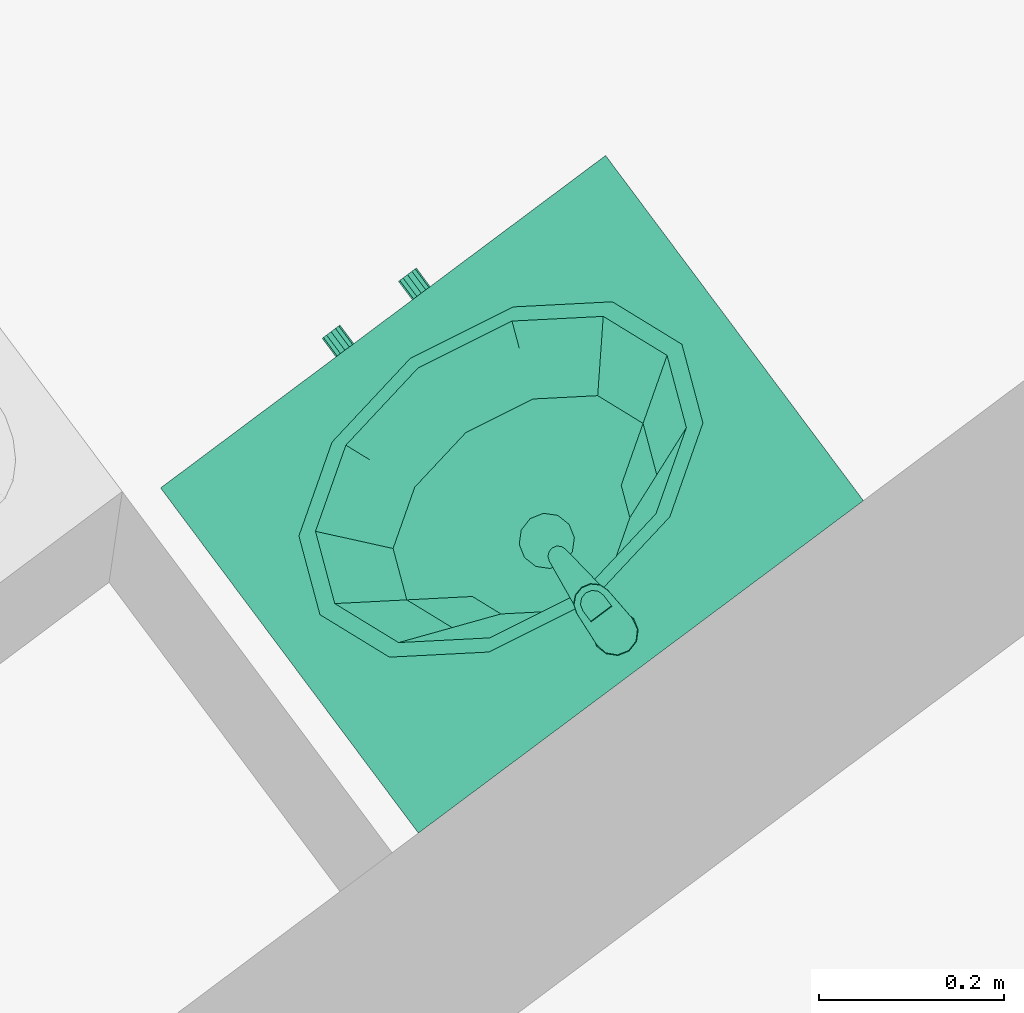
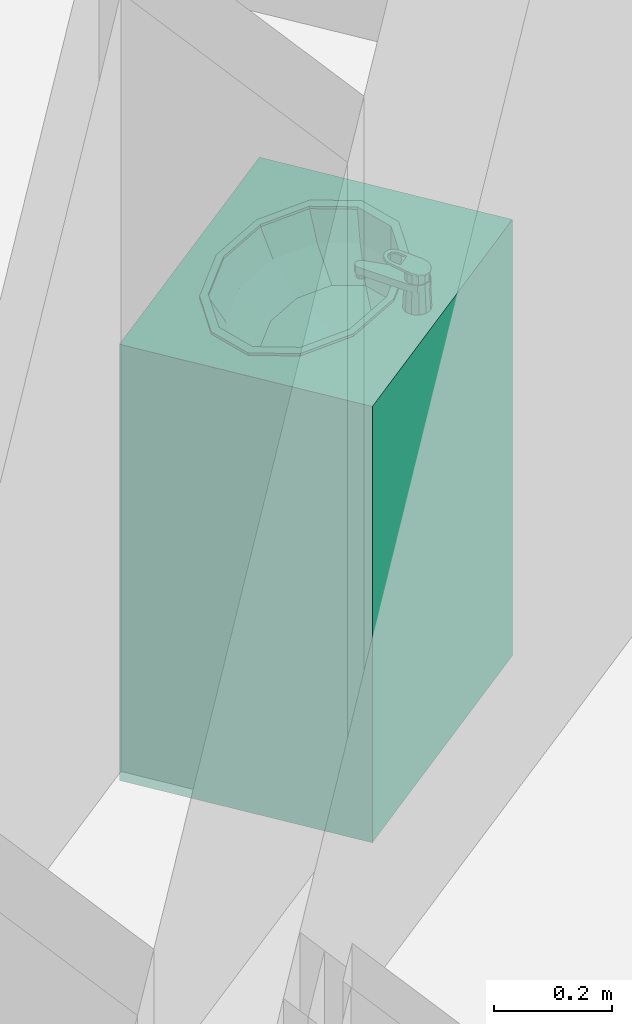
# One storey, part 132 of 195: 1 distribution element.
"""IFC2X3 building model written with IfcOpenShell, lengths in metres."""

from ifc_helpers import new_model, entity, si_unit, converted_unit, derived_unit, money_unit, direction, frame, origin_with_axes, place, context, subcontext, project, spatial, open_shell, faceted_brep, surface_model, source, transform, mapped, type_object, element, save


model = new_model("IFC2X3")

# Units and contexts
model_context = context("Model", 3, precision=1e-05, world=origin_with_axes(), true_north=direction((0.0, 1.0)))
body_context = subcontext(model_context, "Body", "Model", "MODEL_VIEW")
ifc_project = project(units=[si_unit("LENGTHUNIT", "METRE"), si_unit("AREAUNIT", "SQUARE_METRE"), si_unit("VOLUMEUNIT", "CUBIC_METRE"), converted_unit("PLANEANGLEUNIT", "DEGREE", entity("IfcPlaneAngleMeasure", 0.0174532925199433), si_unit("PLANEANGLEUNIT", "RADIAN"), dimensions=[0, 0, 0, 0, 0, 0, 0]), money_unit("CHF"), converted_unit("TIMEUNIT", "Year", entity("IfcTimeMeasure", 31557600.0), si_unit("TIMEUNIT", "SECOND"), dimensions=[0, 0, 1, 0, 0, 0, 0]), si_unit("MASSUNIT", "GRAM", prefix="KILO"), si_unit("THERMODYNAMICTEMPERATUREUNIT", "DEGREE_CELSIUS"), si_unit("LUMINOUSINTENSITYUNIT", "LUMEN"), si_unit("ENERGYUNIT", "JOULE", prefix="MEGA"), derived_unit("THERMALCONDUCTANCEUNIT", [(si_unit("POWERUNIT", "WATT"), 1), (si_unit("LENGTHUNIT", "METRE"), -1), (si_unit("THERMODYNAMICTEMPERATUREUNIT", "KELVIN"), -1)]), derived_unit("SPECIFICHEATCAPACITYUNIT", [(si_unit("ENERGYUNIT", "JOULE"), 1), (si_unit("MASSUNIT", "GRAM", prefix="KILO"), -1), (si_unit("THERMODYNAMICTEMPERATUREUNIT", "KELVIN"), -1)]), derived_unit("MASSDENSITYUNIT", [(si_unit("MASSUNIT", "GRAM", prefix="KILO"), 1), (si_unit("VOLUMEUNIT", "CUBIC_METRE"), -1)])], contexts=[model_context])

# Site, building, storey
site_placement = place(None, origin_with_axes())
site = spatial("IfcSite", under=ifc_project, at=site_placement, Name="Site", CompositionType="ELEMENT")
building_placement = place(site_placement, origin_with_axes())
building = spatial("IfcBuilding", under=site, at=building_placement, Name="Bâtiment", CompositionType="ELEMENT")
storey_placement = place(building_placement, origin_with_axes())
storey = spatial("IfcBuildingStorey", under=building, at=storey_placement, Name="rdc", CompositionType="ELEMENT", Elevation=0.0)

# Distribution element
distribution_element_type = type_object("IfcDistributionElementType", Name="Lavabo sur meuble 27")
shared_shape = source(origin_with_axes(), body_context, "Body", "SurfaceModel", [
    faceted_brep([(0.0, 0.0, 0.0), (0.6, 0.0, 0.0), (0.6, 0.0, 0.1), (0.0, 0.0, 0.1), (0.0, 0.4653441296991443, 0.0), (0.6, 0.4653441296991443, 0.0), (0.6, 0.4653441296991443, 0.1), (0.0, 0.4653441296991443, 0.1)], [[[0, 1, 2, 3]], [[0, 4, 5, 1]], [[1, 5, 6, 2]], [[3, 2, 6, 7]], [[4, 0, 3, 7]], [[5, 4, 7, 6]]]),
    faceted_brep([(0.0, 0.0, 0.1), (0.02, 0.0, 0.1), (0.02, 0.0, 0.12), (0.0, 0.0, 0.12), (0.0, 0.4653441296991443, 0.1), (0.02, 0.4653441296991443, 0.1), (0.58, 0.4653441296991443, 0.1), (0.6, 0.4653441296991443, 0.1), (0.6, 0.0, 0.1), (0.58, 0.0, 0.1), (0.58, 0.0, 0.12), (0.6, 0.0, 0.12), (0.6, 0.4653441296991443, 0.12), (0.58, 0.4653441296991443, 0.12), (0.02, 0.4653441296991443, 0.12), (0.0, 0.4653441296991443, 0.12)], [[[0, 1, 2, 3]], [[0, 4, 5, 6, 7, 8, 9, 1]], [[1, 9, 10, 2]], [[3, 2, 10, 11, 12, 13, 14, 15]], [[4, 0, 3, 15]], [[5, 4, 15, 14]], [[6, 5, 14, 13]], [[7, 6, 13, 12]], [[8, 7, 12, 11]], [[9, 8, 11, 10]]]),
    faceted_brep([(0.0, 0.0, 0.12), (0.02, 0.0, 0.12), (0.02, 0.0, 0.85), (0.0, 0.0, 0.85), (0.0, 0.4653441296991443, 0.12), (0.6, 0.4653441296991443, 0.12), (0.6, 0.0, 0.12), (0.58, 0.0, 0.12), (0.58, 0.4453441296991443, 0.12), (0.02, 0.4453441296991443, 0.12), (0.02, 0.4453441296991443, 0.85), (0.58, 0.4453441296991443, 0.85), (0.58, 0.0, 0.85), (0.6, 0.0, 0.85), (0.6, 0.4653441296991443, 0.85), (0.0, 0.4653441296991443, 0.85)], [[[0, 1, 2, 3]], [[0, 4, 5, 6, 7, 8, 9, 1]], [[1, 9, 10, 2]], [[3, 2, 10, 11, 12, 13, 14, 15]], [[4, 0, 3, 15]], [[5, 4, 15, 14]], [[6, 5, 14, 13]], [[7, 6, 13, 12]], [[8, 7, 12, 11]], [[9, 8, 11, 10]]]),
    faceted_brep([(0.58, 0.0, 0.3233333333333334), (0.58, 0.4453441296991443, 0.3233333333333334), (0.58, 0.4453441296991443, 0.3433333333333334), (0.58, 0.0, 0.3433333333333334), (0.02, 0.0, 0.3233333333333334), (0.02, 0.4453441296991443, 0.3233333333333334), (0.02, 0.4453441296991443, 0.3433333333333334), (0.02, 0.0, 0.3433333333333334)], [[[0, 1, 2, 3]], [[0, 4, 5, 1]], [[1, 5, 6, 2]], [[3, 2, 6, 7]], [[4, 0, 3, 7]], [[5, 4, 7, 6]]]),
    faceted_brep([(0.58, 0.0, 0.5666666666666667), (0.58, 0.4453441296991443, 0.5666666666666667), (0.58, 0.4453441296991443, 0.5866666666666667), (0.58, 0.0, 0.5866666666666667), (0.02, 0.0, 0.5666666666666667), (0.02, 0.4453441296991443, 0.5666666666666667), (0.02, 0.4453441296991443, 0.5866666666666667), (0.02, 0.0, 0.5866666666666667)], [[[0, 1, 2, 3]], [[0, 4, 5, 1]], [[1, 5, 6, 2]], [[3, 2, 6, 7]], [[4, 0, 3, 7]], [[5, 4, 7, 6]]]),
    faceted_brep([(0.0, 0.4653441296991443, 0.85), (0.6, 0.4653441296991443, 0.85), (0.6, 0.0, 0.85), (0.0, 0.0, 0.85), (0.4124999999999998, 0.08276825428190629, 0.85), (0.4948557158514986, 0.137672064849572, 0.85), (0.525, 0.2126720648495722, 0.85), (0.4948557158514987, 0.2876720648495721, 0.85), (0.4125, 0.3425758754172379, 0.85), (0.3, 0.3626720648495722, 0.85), (0.1875000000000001, 0.342575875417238, 0.85), (0.1051442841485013, 0.2876720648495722, 0.85), (0.07499999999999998, 0.2126720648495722, 0.85), (0.1051442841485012, 0.1376720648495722, 0.85), (0.1874999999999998, 0.08276825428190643, 0.85), (0.3, 0.06267206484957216, 0.85), (0.0, 0.4653441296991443, 0.9), (0.6, 0.4653441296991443, 0.9), (0.6, 0.0, 0.9), (0.0, 0.0, 0.9), (0.4124999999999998, 0.08276825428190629, 0.9), (0.4948557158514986, 0.137672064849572, 0.9), (0.525, 0.2126720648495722, 0.9), (0.4948557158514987, 0.2876720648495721, 0.9), (0.4125, 0.3425758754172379, 0.9), (0.3, 0.3626720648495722, 0.9), (0.1875000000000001, 0.342575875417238, 0.9), (0.1051442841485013, 0.2876720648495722, 0.9), (0.07499999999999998, 0.2126720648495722, 0.9), (0.1051442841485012, 0.1376720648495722, 0.9), (0.1874999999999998, 0.08276825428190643, 0.9), (0.3, 0.06267206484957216, 0.9)], [[[0, 1, 2, 3], [4, 5, 6, 7, 8, 9, 10, 11, 12, 13, 14, 15]], [[0, 16, 17, 1]], [[1, 17, 18, 2]], [[2, 18, 19, 3]], [[3, 19, 16, 0]], [[20, 21, 5, 4]], [[21, 22, 6, 5]], [[22, 23, 7, 6]], [[23, 24, 8, 7]], [[24, 25, 9, 8]], [[25, 26, 10, 9]], [[26, 27, 11, 10]], [[27, 28, 12, 11]], [[28, 29, 13, 12]], [[29, 30, 14, 13]], [[30, 31, 15, 14]], [[31, 20, 4, 15]], [[18, 17, 16, 19], [24, 23, 22, 21, 20, 31, 30, 29, 28, 27, 26, 25]]]),
    faceted_brep([(0.544, 0.2126720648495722, 0.905), (0.544, 0.2126720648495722, 0.9), (0.511310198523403, 0.2943684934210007, 0.9), (0.511310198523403, 0.2943684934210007, 0.905), (0.5113101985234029, 0.1309756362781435, 0.905), (0.5113101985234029, 0.1309756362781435, 0.9), (0.4219999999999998, 0.07116969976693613, 0.9), (0.3, 0.04927920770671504, 0.9), (0.1779999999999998, 0.07116969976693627, 0.9), (0.08868980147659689, 0.1309756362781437, 0.9), (0.05599999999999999, 0.2126720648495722, 0.9), (0.088689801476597, 0.2943684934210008, 0.9), (0.178, 0.3541744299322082, 0.9), (0.3, 0.3760649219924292, 0.9), (0.422, 0.3541744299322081, 0.9), (0.524, 0.2126720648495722, 0.9), (0.4939896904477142, 0.2876720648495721, 0.9), (0.412, 0.3425758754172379, 0.9), (0.3, 0.3626720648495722, 0.9), (0.1880000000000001, 0.342575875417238, 0.9), (0.1060103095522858, 0.2876720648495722, 0.9), (0.07599999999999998, 0.2126720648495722, 0.9), (0.1060103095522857, 0.1376720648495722, 0.9), (0.1879999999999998, 0.08276825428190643, 0.9), (0.3, 0.06267206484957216, 0.9), (0.4119999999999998, 0.08276825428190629, 0.9), (0.4939896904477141, 0.137672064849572, 0.9), (0.422, 0.3541744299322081, 0.905), (0.3, 0.3760649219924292, 0.905), (0.178, 0.3541744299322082, 0.905), (0.088689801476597, 0.2943684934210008, 0.905), (0.05599999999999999, 0.2126720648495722, 0.905), (0.08868980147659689, 0.1309756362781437, 0.905), (0.1779999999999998, 0.07116969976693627, 0.905), (0.3, 0.04927920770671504, 0.905), (0.4219999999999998, 0.07116969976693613, 0.905), (0.524, 0.2126720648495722, 0.905), (0.4939896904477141, 0.137672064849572, 0.905), (0.4119999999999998, 0.08276825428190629, 0.905), (0.3, 0.06267206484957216, 0.905), (0.1879999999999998, 0.08276825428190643, 0.905), (0.1060103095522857, 0.1376720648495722, 0.905), (0.07599999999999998, 0.2126720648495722, 0.905), (0.1060103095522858, 0.2876720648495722, 0.905), (0.1880000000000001, 0.342575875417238, 0.905), (0.3, 0.3626720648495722, 0.905), (0.412, 0.3425758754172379, 0.905), (0.4939896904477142, 0.2876720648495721, 0.905)], [[[0, 1, 2, 3]], [[4, 5, 1, 0]], [[1, 5, 6, 7, 8, 9, 10, 11, 12, 13, 14, 2], [15, 16, 17, 18, 19, 20, 21, 22, 23, 24, 25, 26]], [[3, 2, 14, 27]], [[0, 3, 27, 28, 29, 30, 31, 32, 33, 34, 35, 4], [36, 37, 38, 39, 40, 41, 42, 43, 44, 45, 46, 47]], [[35, 6, 5, 4]], [[34, 7, 6, 35]], [[33, 8, 7, 34]], [[32, 9, 8, 33]], [[31, 10, 9, 32]], [[30, 11, 10, 31]], [[29, 12, 11, 30]], [[28, 13, 12, 29]], [[27, 14, 13, 28]], [[47, 16, 15, 36]], [[46, 17, 16, 47]], [[45, 18, 17, 46]], [[44, 19, 18, 45]], [[43, 20, 19, 44]], [[42, 21, 20, 43]], [[41, 22, 21, 42]], [[40, 23, 22, 41]], [[39, 24, 23, 40]], [[38, 25, 24, 39]], [[37, 26, 25, 38]], [[36, 15, 26, 37]]]),
    surface_model("IfcShellBasedSurfaceModel", [(0.3, 0.3626720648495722, 0.9), (0.3, 0.3626720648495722, 0.848), (0.4008, 0.3445854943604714, 0.848), (0.412, 0.342575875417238, 0.9), (0.1879999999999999, 0.3425758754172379, 0.9), (0.1991999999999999, 0.3445854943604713, 0.848), (0.4745907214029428, 0.2951720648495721, 0.848), (0.4939896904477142, 0.2876720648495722, 0.9), (0.1060103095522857, 0.2876720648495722, 0.9), (0.1254092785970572, 0.2951720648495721, 0.848), (0.5016, 0.2276720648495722, 0.848), (0.524, 0.2126720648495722, 0.9), (0.07599999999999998, 0.2126720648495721, 0.9), (0.09839999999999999, 0.2276720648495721, 0.848), (0.4745907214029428, 0.1601720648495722, 0.848), (0.4939896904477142, 0.1376720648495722, 0.9), (0.1060103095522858, 0.1376720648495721, 0.9), (0.1254092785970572, 0.1601720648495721, 0.848), (0.4008, 0.1107586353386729, 0.848), (0.412, 0.08276825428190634, 0.9), (0.1879999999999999, 0.08276825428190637, 0.9), (0.1992, 0.110758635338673, 0.848), (0.3, 0.09267206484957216, 0.848), (0.3, 0.06267206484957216, 0.9)], [open_shell([[[0, 1, 2, 3]], [[4, 5, 1, 0]], [[3, 2, 6, 7]], [[8, 9, 5, 4]], [[7, 6, 10, 11]], [[12, 13, 9, 8]], [[11, 10, 14, 15]], [[16, 17, 13, 12]], [[15, 14, 18, 19]], [[20, 21, 17, 16]], [[19, 18, 22, 23]], [[23, 22, 21, 20]]])]),
    surface_model("IfcShellBasedSurfaceModel", [(0.3, 0.3626720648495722, 0.848), (0.3, 0.3626720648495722, 0.7959999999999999), (0.379632, 0.3483836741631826, 0.7959999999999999), (0.4008, 0.3445854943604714, 0.848), (0.1991999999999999, 0.3445854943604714, 0.848), (0.2203679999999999, 0.3483836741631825, 0.7959999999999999), (0.4379266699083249, 0.3093470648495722, 0.7959999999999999), (0.4745907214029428, 0.2951720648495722, 0.848), (0.1254092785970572, 0.2951720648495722, 0.848), (0.1620733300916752, 0.3093470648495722, 0.7959999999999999), (0.459264, 0.2560220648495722, 0.7959999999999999), (0.5016, 0.2276720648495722, 0.848), (0.09839999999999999, 0.2276720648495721, 0.848), (0.140736, 0.2560220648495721, 0.7959999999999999), (0.4379266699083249, 0.2026970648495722, 0.7959999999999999), (0.4745907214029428, 0.1601720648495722, 0.848), (0.1254092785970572, 0.1601720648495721, 0.848), (0.1620733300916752, 0.2026970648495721, 0.7959999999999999), (0.379632, 0.1636604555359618, 0.7959999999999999), (0.4008, 0.1107586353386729, 0.848), (0.1992, 0.110758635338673, 0.848), (0.220368, 0.1636604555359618, 0.7959999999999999), (0.3, 0.1493720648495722, 0.7959999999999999), (0.3, 0.09267206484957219, 0.848)], [open_shell([[[0, 1, 2, 3]], [[4, 5, 1, 0]], [[3, 2, 6, 7]], [[8, 9, 5, 4]], [[7, 6, 10, 11]], [[12, 13, 9, 8]], [[11, 10, 14, 15]], [[16, 17, 13, 12]], [[15, 14, 18, 19]], [[20, 21, 17, 16]], [[19, 18, 22, 23]], [[23, 22, 21, 20]]])]),
    surface_model("IfcShellBasedSurfaceModel", [(0.3, 0.3626720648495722, 0.7959999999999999), (0.3, 0.3626720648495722, 0.7699999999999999), (0.35016816, 0.3536703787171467, 0.7699999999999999), (0.379632, 0.3483836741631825, 0.7959999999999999), (0.2203679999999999, 0.3483836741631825, 0.7959999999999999), (0.2498318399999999, 0.3536703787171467, 0.7699999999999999), (0.3868938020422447, 0.3290773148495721, 0.7699999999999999), (0.4379266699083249, 0.3093470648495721, 0.7959999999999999), (0.1620733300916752, 0.3093470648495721, 0.7959999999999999), (0.2131061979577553, 0.3290773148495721, 0.7699999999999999), (0.40033632, 0.2954825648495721, 0.7699999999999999), (0.459264, 0.2560220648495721, 0.7959999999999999), (0.140736, 0.2560220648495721, 0.7959999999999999), (0.19966368, 0.2954825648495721, 0.7699999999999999), (0.3868938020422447, 0.2618878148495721, 0.7699999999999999), (0.4379266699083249, 0.2026970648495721, 0.7959999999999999), (0.1620733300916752, 0.2026970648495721, 0.7959999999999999), (0.2131061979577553, 0.2618878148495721, 0.7699999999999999), (0.35016816, 0.2372947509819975, 0.7699999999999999), (0.379632, 0.1636604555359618, 0.7959999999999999), (0.220368, 0.1636604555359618, 0.7959999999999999), (0.24983184, 0.2372947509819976, 0.7699999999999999), (0.3, 0.2282930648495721, 0.7699999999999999), (0.3, 0.1493720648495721, 0.7959999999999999)], [open_shell([[[0, 1, 2, 3]], [[4, 5, 1, 0]], [[3, 2, 6, 7]], [[8, 9, 5, 4]], [[7, 6, 10, 11]], [[12, 13, 9, 8]], [[11, 10, 14, 15]], [[16, 17, 13, 12]], [[15, 14, 18, 19]], [[20, 21, 17, 16]], [[19, 18, 22, 23]], [[23, 22, 21, 20]]])]),
    surface_model("IfcShellBasedSurfaceModel", [(0.3, 0.3626720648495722, 0.7699999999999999), (0.315, 0.3214633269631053, 0.7629999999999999), (0.35016816, 0.3536703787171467, 0.7699999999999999), (0.3, 0.3254825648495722, 0.7629999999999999), (0.3259807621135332, 0.3104825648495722, 0.7629999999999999), (0.2498318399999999, 0.3536703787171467, 0.7699999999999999), (0.3868938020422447, 0.3290773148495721, 0.7699999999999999), (0.285, 0.3214633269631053, 0.7629999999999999), (0.33, 0.2954825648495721, 0.7629999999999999), (0.2131061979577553, 0.3290773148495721, 0.7699999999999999), (0.40033632, 0.2954825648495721, 0.7699999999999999), (0.2740192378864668, 0.3104825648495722, 0.7629999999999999), (0.3259807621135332, 0.2804825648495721, 0.7629999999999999), (0.19966368, 0.2954825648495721, 0.7699999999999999), (0.3868938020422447, 0.2618878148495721, 0.7699999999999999), (0.27, 0.2954825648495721, 0.7629999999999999), (0.315, 0.269501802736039, 0.7629999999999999), (0.2131061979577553, 0.2618878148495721, 0.7699999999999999), (0.35016816, 0.2372947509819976, 0.7699999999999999), (0.2740192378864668, 0.2804825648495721, 0.7629999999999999), (0.3, 0.2654825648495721, 0.7629999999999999), (0.24983184, 0.2372947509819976, 0.7699999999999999), (0.3, 0.2282930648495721, 0.7699999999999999), (0.285, 0.269501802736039, 0.7629999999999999)], [open_shell([[[0, 1, 2]], [[0, 3, 1]], [[2, 1, 4]], [[5, 3, 0]], [[2, 4, 6]], [[5, 7, 3]], [[6, 4, 8]], [[9, 7, 5]], [[6, 8, 10]], [[9, 11, 7]], [[10, 8, 12]], [[13, 11, 9]], [[10, 12, 14]], [[13, 15, 11]], [[14, 12, 16]], [[17, 15, 13]], [[14, 16, 18]], [[17, 19, 15]], [[18, 16, 20]], [[21, 19, 17]], [[18, 20, 22]], [[21, 23, 19]], [[22, 20, 23]], [[22, 23, 21]]])]),
    surface_model("IfcShellBasedSurfaceModel", [(0.33, 0.2954825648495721, 0.763), (0.33, 0.2954825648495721, 0.758), (0.3259807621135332, 0.3104825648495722, 0.758), (0.3259807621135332, 0.3104825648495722, 0.763), (0.3259807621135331, 0.2804825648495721, 0.763), (0.3259807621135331, 0.2804825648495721, 0.758), (0.3149999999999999, 0.269501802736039, 0.758), (0.3, 0.2654825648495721, 0.758), (0.285, 0.269501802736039, 0.758), (0.2740192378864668, 0.2804825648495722, 0.758), (0.27, 0.2954825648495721, 0.758), (0.2740192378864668, 0.3104825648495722, 0.758), (0.285, 0.3214633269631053, 0.758), (0.3, 0.3254825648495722, 0.758), (0.315, 0.3214633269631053, 0.758), (0.315, 0.3214633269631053, 0.763), (0.3149999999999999, 0.269501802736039, 0.763), (0.3, 0.2654825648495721, 0.763), (0.285, 0.269501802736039, 0.763), (0.2740192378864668, 0.2804825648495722, 0.763), (0.27, 0.2954825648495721, 0.763), (0.2740192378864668, 0.3104825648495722, 0.763), (0.285, 0.3214633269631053, 0.763), (0.3, 0.3254825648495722, 0.763)], [open_shell([[[0, 1, 2, 3]], [[4, 5, 1, 0]], [[1, 5, 6, 7, 8, 9, 10, 11, 12, 13, 14, 2]], [[3, 2, 14, 15]], [[16, 6, 5, 4]], [[17, 7, 6, 16]], [[18, 8, 7, 17]], [[19, 9, 8, 18]], [[20, 10, 9, 19]], [[21, 11, 10, 20]], [[22, 12, 11, 21]], [[23, 13, 12, 22]], [[15, 14, 13, 23]]])]),
    faceted_brep([(0.3125, 0.4406587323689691, 0.9), (0.3, 0.4440080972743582, 0.9), (0.3, 0.4402100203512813, 0.9759615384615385), (0.310587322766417, 0.4373458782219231, 0.976507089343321), (0.3216506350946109, 0.4315080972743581, 0.9), (0.325, 0.4190080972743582, 0.9), (0.3216506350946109, 0.4065080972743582, 0.9), (0.3125, 0.3973574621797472, 0.9), (0.3, 0.3940080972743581, 0.9), (0.2875, 0.3973574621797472, 0.9), (0.278349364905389, 0.4065080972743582, 0.9), (0.275, 0.4190080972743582, 0.9), (0.278349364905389, 0.4315080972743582, 0.9), (0.2875, 0.4406587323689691, 0.9), (0.289412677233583, 0.4373458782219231, 0.976507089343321), (0.2817264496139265, 0.4295583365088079, 0.9779904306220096), (0.279, 0.4190080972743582, 0.98), (0.2818996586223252, 0.4085578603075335, 0.9819905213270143), (0.2895858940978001, 0.400970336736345, 0.9834357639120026), (0.3, 0.3982062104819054, 0.9839622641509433), (0.3104141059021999, 0.400970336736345, 0.9834357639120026), (0.3181003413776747, 0.4085578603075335, 0.9819905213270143), (0.321, 0.4190080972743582, 0.98), (0.3182735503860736, 0.4295583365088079, 0.9779904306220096)], [[[0, 1, 2, 3]], [[0, 4, 5, 6, 7, 8, 9, 10, 11, 12, 13, 1]], [[1, 13, 14, 2]], [[3, 2, 14, 15, 16, 17, 18, 19, 20, 21, 22, 23]], [[4, 0, 3, 23]], [[5, 4, 23, 22]], [[6, 5, 22, 21]], [[7, 6, 21, 20]], [[8, 7, 20, 19]], [[9, 8, 19, 18]], [[10, 9, 18, 17]], [[11, 10, 17, 16]], [[12, 11, 16, 15]], [[13, 12, 15, 14]]]),
    faceted_brep([(0.309, 0.3160080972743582, 0.935), (0.3077942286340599, 0.3205080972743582, 0.935), (0.3077942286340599, 0.3205080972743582, 0.9450000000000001), (0.309, 0.3160080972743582, 0.9450000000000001), (0.3077942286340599, 0.3115080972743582, 0.935), (0.3045, 0.3082138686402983, 0.935), (0.3, 0.3070080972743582, 0.935), (0.2955, 0.3082138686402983, 0.935), (0.2922057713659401, 0.3115080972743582, 0.935), (0.291, 0.3160080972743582, 0.935), (0.2922057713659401, 0.3205080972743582, 0.935), (0.2955, 0.3238023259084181, 0.935), (0.3, 0.3250080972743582, 0.935), (0.3045, 0.3238023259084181, 0.935), (0.3045, 0.3238023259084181, 0.9450000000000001), (0.3, 0.3250080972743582, 0.9450000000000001), (0.2955, 0.3238023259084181, 0.9450000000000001), (0.2922057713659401, 0.3205080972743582, 0.9450000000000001), (0.291, 0.3160080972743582, 0.9450000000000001), (0.2922057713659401, 0.3115080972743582, 0.9450000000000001), (0.2955, 0.3082138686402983, 0.9450000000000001), (0.3, 0.3070080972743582, 0.9450000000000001), (0.3045, 0.3082138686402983, 0.9450000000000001), (0.3077942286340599, 0.3115080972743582, 0.9450000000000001)], [[[0, 1, 2, 3]], [[0, 4, 5, 6, 7, 8, 9, 10, 11, 12, 13, 1]], [[1, 13, 14, 2]], [[3, 2, 14, 15, 16, 17, 18, 19, 20, 21, 22, 23]], [[4, 0, 3, 23]], [[5, 4, 23, 22]], [[6, 5, 22, 21]], [[7, 6, 21, 20]], [[8, 7, 20, 19]], [[9, 8, 19, 18]], [[10, 9, 18, 17]], [[11, 10, 17, 16]], [[12, 11, 16, 15]], [[13, 12, 15, 14]]]),
    faceted_brep([(0.2871282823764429, 0.439264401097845, 0.9600000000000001), (0.2782721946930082, 0.4292013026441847, 0.9600000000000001), (0.2761946, 0.4159581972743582, 0.9600000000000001), (0.2890880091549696, 0.3146197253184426, 0.9600000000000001), (0.2909711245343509, 0.3097249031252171, 0.9600000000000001), (0.2949066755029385, 0.3062583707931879, 0.9600000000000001), (0.300000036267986, 0.305008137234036, 0.9600000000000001), (0.3050933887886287, 0.3062584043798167, 0.9600000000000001), (0.309028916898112, 0.3097249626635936, 0.9600000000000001), (0.310912, 0.3146197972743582, 0.9600000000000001), (0.3238053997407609, 0.4159581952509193, 0.9600000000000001), (0.3217278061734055, 0.4292013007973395, 0.9600000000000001), (0.3128717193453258, 0.4392644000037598, 0.9600000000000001), (0.300000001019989, 0.44300807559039, 0.9600000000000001), (0.311, 0.4380606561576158, 0.9600000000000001), (0.3190525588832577, 0.4300080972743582, 0.9600000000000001), (0.322, 0.4190080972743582, 0.9600000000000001), (0.3190525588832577, 0.4080080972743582, 0.9600000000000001), (0.3109999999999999, 0.3999555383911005, 0.9600000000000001), (0.3, 0.3970080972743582, 0.9600000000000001), (0.289, 0.3999555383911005, 0.9600000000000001), (0.2809474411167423, 0.4080080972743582, 0.9600000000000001), (0.278, 0.4190080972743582, 0.9600000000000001), (0.2809474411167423, 0.4300080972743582, 0.9600000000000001), (0.289, 0.4380606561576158, 0.9600000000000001), (0.3, 0.4410080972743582, 0.9600000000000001), (0.2782721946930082, 0.4292013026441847, 0.9450000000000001), (0.2871282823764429, 0.439264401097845, 0.9450000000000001), (0.2761946, 0.4159581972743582, 0.9450000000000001), (0.2890880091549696, 0.3146197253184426, 0.9450000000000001), (0.2909711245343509, 0.3097249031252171, 0.9450000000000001), (0.2949066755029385, 0.3062583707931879, 0.9450000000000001), (0.300000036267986, 0.305008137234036, 0.9450000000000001), (0.3050933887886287, 0.3062584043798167, 0.9450000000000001), (0.309028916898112, 0.3097249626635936, 0.9450000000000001), (0.310912, 0.3146197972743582, 0.9450000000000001), (0.3238053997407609, 0.4159581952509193, 0.9450000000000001), (0.3217278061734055, 0.4292013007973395, 0.9450000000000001), (0.3128717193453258, 0.4392644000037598, 0.9450000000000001), (0.300000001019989, 0.44300807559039, 0.9450000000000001), (0.311375, 0.4387101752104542, 0.9450000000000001), (0.319702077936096, 0.4303830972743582, 0.9450000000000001), (0.32275, 0.4190080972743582, 0.9450000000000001), (0.319702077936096, 0.4076330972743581, 0.9450000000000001), (0.311375, 0.3993060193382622, 0.9450000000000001), (0.3, 0.3962580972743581, 0.9450000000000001), (0.288625, 0.3993060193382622, 0.9450000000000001), (0.280297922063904, 0.4076330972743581, 0.9450000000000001), (0.2772499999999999, 0.4190080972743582, 0.9450000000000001), (0.280297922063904, 0.4303830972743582, 0.9450000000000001), (0.288625, 0.4387101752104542, 0.9450000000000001), (0.3, 0.4417580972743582, 0.9450000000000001)], [[[0, 1, 2, 3, 4, 5, 6, 7, 8, 9, 10, 11, 12, 13], [14, 15, 16, 17, 18, 19, 20, 21, 22, 23, 24, 25]], [[26, 1, 0, 27]], [[28, 2, 1, 26]], [[29, 3, 2, 28]], [[30, 4, 3, 29]], [[31, 5, 4, 30]], [[32, 6, 5, 31]], [[33, 7, 6, 32]], [[34, 8, 7, 33]], [[35, 9, 8, 34]], [[36, 10, 9, 35]], [[37, 11, 10, 36]], [[38, 12, 11, 37]], [[39, 13, 12, 38]], [[27, 0, 13, 39]], [[40, 41, 15, 14]], [[41, 42, 16, 15]], [[42, 43, 17, 16]], [[43, 44, 18, 17]], [[44, 45, 19, 18]], [[20, 19, 45, 46]], [[21, 20, 46, 47]], [[22, 21, 47, 48]], [[23, 22, 48, 49]], [[24, 23, 49, 50]], [[50, 51, 25, 24]], [[51, 40, 14, 25]], [[32, 31, 30, 29, 28, 26, 27, 39, 38, 37, 36, 35, 34, 33], [44, 43, 42, 41, 40, 51, 50, 49, 48, 47, 46, 45]]]),
    faceted_brep([(0.323893, 0.4173155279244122, 0.9803223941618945), (0.3212964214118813, 0.4297828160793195, 0.9779476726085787), (0.3212964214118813, 0.4305312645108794, 0.9818770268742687), (0.323893, 0.4180639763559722, 0.9842517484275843), (0.3209459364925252, 0.377171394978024, 0.9879688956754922), (0.317663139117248, 0.3674937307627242, 0.9898122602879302), (0.3100614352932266, 0.3605443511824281, 0.9911359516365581), (0.2999995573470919, 0.3580224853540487, 0.9916163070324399), (0.289937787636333, 0.3605447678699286, 0.9911358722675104), (0.2823363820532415, 0.3674944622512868, 0.9898121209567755), (0.279054, 0.3771722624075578, 0.9879687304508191), (0.2761069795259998, 0.4173158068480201, 0.9803223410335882), (0.2787037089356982, 0.4297830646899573, 0.9779476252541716), (0.2875283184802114, 0.4390992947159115, 0.976173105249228), (0.3000001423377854, 0.4425400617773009, 0.9755177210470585), (0.3124719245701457, 0.4390991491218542, 0.9761731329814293), (0.314, 0.3934672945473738, 0.9848649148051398), (0.286, 0.3934672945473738, 0.9848649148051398), (0.286, 0.37865166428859, 0.9876869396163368), (0.2878756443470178, 0.3717752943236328, 0.9889967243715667), (0.293, 0.3667414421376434, 0.9899555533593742), (0.3, 0.3648989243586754, 0.9903065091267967), (0.307, 0.3667414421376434, 0.9899555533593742), (0.3121243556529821, 0.3717752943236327, 0.9889967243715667), (0.314, 0.37865166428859, 0.9876869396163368), (0.3124719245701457, 0.4398475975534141, 0.9801024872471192), (0.3000001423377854, 0.4432885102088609, 0.9794470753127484), (0.2875283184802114, 0.4398477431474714, 0.9801024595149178), (0.2787037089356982, 0.4305315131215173, 0.9818769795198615), (0.2761069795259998, 0.4180642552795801, 0.9842516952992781), (0.279054, 0.3779207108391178, 0.991898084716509), (0.2823363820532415, 0.3682429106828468, 0.9937414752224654), (0.289937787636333, 0.3612932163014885, 0.9950652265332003), (0.2999995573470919, 0.3587709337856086, 0.9955456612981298), (0.3100614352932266, 0.3612927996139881, 0.995065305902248), (0.317663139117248, 0.3682421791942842, 0.9937416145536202), (0.3209459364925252, 0.377919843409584, 0.9918982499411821), (0.314, 0.3942157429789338, 0.9887942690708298), (0.314, 0.3794001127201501, 0.9916162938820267), (0.3121243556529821, 0.3725237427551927, 0.9929260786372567), (0.307, 0.3674898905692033, 0.9938849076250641), (0.3, 0.3656473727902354, 0.9942358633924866), (0.293, 0.3674898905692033, 0.9938849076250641), (0.2878756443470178, 0.3725237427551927, 0.9929260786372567), (0.286, 0.3794001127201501, 0.9916162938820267), (0.286, 0.3942157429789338, 0.9887942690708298)], [[[0, 1, 2, 3]], [[0, 4, 5, 6, 7, 8, 9, 10, 11, 12, 13, 14, 15, 1], [16, 17, 18, 19, 20, 21, 22, 23, 24]], [[1, 15, 25, 2]], [[3, 2, 25, 26, 27, 28, 29, 30, 31, 32, 33, 34, 35, 36], [37, 38, 39, 40, 41, 42, 43, 44, 45]], [[4, 0, 3, 36]], [[5, 4, 36, 35]], [[6, 5, 35, 34]], [[7, 6, 34, 33]], [[8, 7, 33, 32]], [[9, 8, 32, 31]], [[10, 9, 31, 30]], [[11, 10, 30, 29]], [[12, 11, 29, 28]], [[13, 12, 28, 27]], [[14, 13, 27, 26]], [[15, 14, 26, 25]], [[17, 16, 37, 45]], [[18, 17, 45, 44]], [[19, 18, 44, 43]], [[20, 19, 43, 42]], [[21, 20, 42, 41]], [[22, 21, 41, 40]], [[23, 22, 40, 39]], [[24, 23, 39, 38]], [[16, 24, 38, 37]]]),
    surface_model("IfcShellBasedSurfaceModel", [(0.001500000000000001, 0.0, 0.1015), (0.001500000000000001, 0.0, 0.8485), (0.2985, 0.0, 0.8485), (0.2985, 0.0, 0.1015)], [open_shell([[[0, 1, 2, 3]]])]),
    faceted_brep([(0.2588923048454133, 0.0, 0.7855), (0.2545, 0.0, 0.7811076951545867), (0.2485, 0.0, 0.7795), (0.2425, 0.0, 0.7811076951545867), (0.2381076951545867, 0.0, 0.7855), (0.2365, 0.0, 0.7915), (0.2381076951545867, 0.0, 0.7975), (0.2425, 0.0, 0.8018923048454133), (0.2485, 0.0, 0.8035), (0.2545, 0.0, 0.8018923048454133), (0.2588923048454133, 0.0, 0.7975), (0.2605, 0.0, 0.7915), (0.2588923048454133, -0.025, 0.7855), (0.2545, -0.025, 0.7811076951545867), (0.2485, -0.025, 0.7795), (0.2425, -0.025, 0.7811076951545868), (0.2381076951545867, -0.025, 0.7855), (0.2365, -0.025, 0.7915), (0.2381076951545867, -0.025, 0.7975), (0.2425, -0.025, 0.8018923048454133), (0.2485, -0.025, 0.8035), (0.2545, -0.025, 0.8018923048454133), (0.2588923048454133, -0.025, 0.7975), (0.2605, -0.025, 0.7915)], [[[0, 1, 2, 3, 4, 5, 6, 7, 8, 9, 10, 11]], [[1, 0, 12, 13]], [[2, 1, 13, 14]], [[3, 2, 14, 15]], [[4, 3, 15, 16]], [[5, 4, 16, 17]], [[6, 5, 17, 18]], [[7, 6, 18, 19]], [[8, 7, 19, 20]], [[9, 8, 20, 21]], [[10, 9, 21, 22]], [[11, 10, 22, 23]], [[0, 11, 23, 12]], [[12, 23, 22, 21, 20, 19, 18, 17, 16, 15, 14, 13]]]),
    surface_model("IfcShellBasedSurfaceModel", [(0.5985, 0.0, 0.1015), (0.3015000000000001, 0.0, 0.1015), (0.3015000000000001, 0.0, 0.8485), (0.5985, 0.0, 0.8485)], [open_shell([[[0, 1, 2, 3]]])]),
    faceted_brep([(0.3411076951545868, 0.0, 0.7855), (0.3395, 0.0, 0.7915), (0.3411076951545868, 0.0, 0.7975), (0.3455, 0.0, 0.8018923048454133), (0.3515, 0.0, 0.8035), (0.3575, 0.0, 0.8018923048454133), (0.3618923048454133, 0.0, 0.7975), (0.3635, 0.0, 0.7915), (0.3618923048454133, 0.0, 0.7855), (0.3575, 0.0, 0.7811076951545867), (0.3515, 0.0, 0.7795), (0.3455, 0.0, 0.7811076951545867), (0.3411076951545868, -0.025, 0.7855), (0.3395, -0.025, 0.7915), (0.3411076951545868, -0.025, 0.7975), (0.3455, -0.025, 0.8018923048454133), (0.3515, -0.025, 0.8035), (0.3575, -0.025, 0.8018923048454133), (0.3618923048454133, -0.025, 0.7975), (0.3635, -0.025, 0.7915), (0.3618923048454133, -0.025, 0.7855), (0.3575, -0.025, 0.7811076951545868), (0.3515, -0.025, 0.7795), (0.3455, -0.025, 0.7811076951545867)], [[[0, 1, 2, 3, 4, 5, 6, 7, 8, 9, 10, 11]], [[0, 12, 13, 1]], [[1, 13, 14, 2]], [[2, 14, 15, 3]], [[3, 15, 16, 4]], [[4, 16, 17, 5]], [[5, 17, 18, 6]], [[6, 18, 19, 7]], [[7, 19, 20, 8]], [[8, 20, 21, 9]], [[9, 21, 22, 10]], [[10, 22, 23, 11]], [[11, 23, 12, 0]], [[12, 23, 22, 21, 20, 19, 18, 17, 16, 15, 14, 13]]]),
])
distribution_element_placement = place(storey_placement, frame((9537.027244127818, -1077.841612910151, 57.59999999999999), z_axis=(0.0, 0.0, 1.0), x_axis=(-0.8011628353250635, -0.5984464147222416, 0.0)))
element("IfcDistributionElement", 1, at=distribution_element_placement, inside=storey, type_object=distribution_element_type, Name="Obj.-004", context=body_context, shape_type="MappedRepresentation", body=[
    mapped(shared_shape, transform((0.0, 0.0, 0.0))),
])

save(model, "model.ifc")
